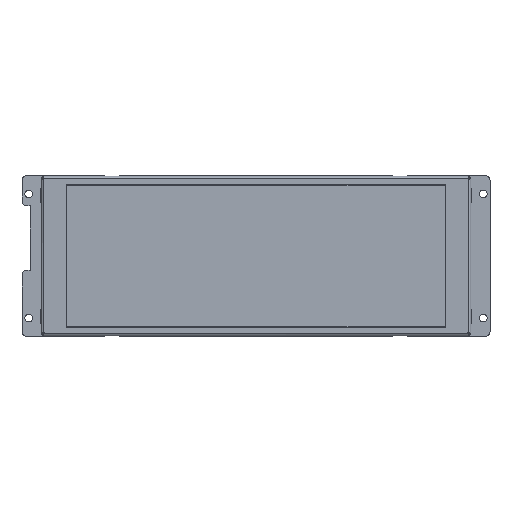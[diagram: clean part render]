
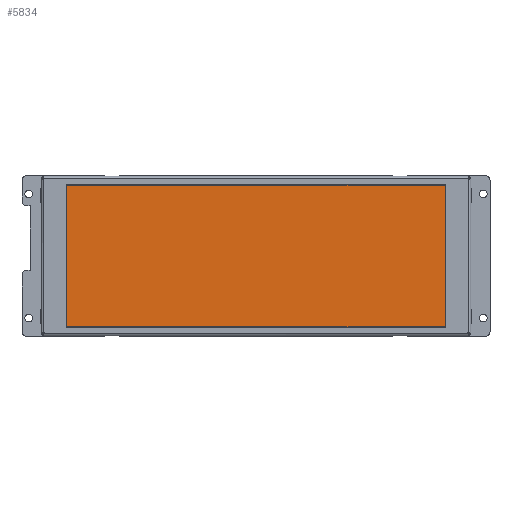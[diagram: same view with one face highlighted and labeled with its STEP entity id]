
A CAD part, top view. The second image highlights one B-rep face of the part: STEP entity #5834.
In plain terms, the highlighted planar face has unit normal (0, 0, 1) as drawn and (0, 1, 0) by its records, which use the part's own axes.
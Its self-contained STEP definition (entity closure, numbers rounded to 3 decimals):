
#5404=DIRECTION('',(1.,0.,0.));
#5405=VECTOR('',#5404,60.22);
#5406=CARTESIAN_POINT('',(-30.11,4.54,-10.1));
#5407=LINE('',#5406,#5405);
#5418=DIRECTION('',(0.,0.,1.));
#5419=VECTOR('',#5418,160.59);
#5420=CARTESIAN_POINT('',(-30.11,4.54,-170.69));
#5421=LINE('',#5420,#5419);
#5432=DIRECTION('',(-1.,0.,0.));
#5433=VECTOR('',#5432,60.22);
#5434=CARTESIAN_POINT('',(30.11,4.54,-170.69));
#5435=LINE('',#5434,#5433);
#5446=DIRECTION('',(0.,0.,-1.));
#5447=VECTOR('',#5446,160.59);
#5448=CARTESIAN_POINT('',(30.11,4.54,-10.1));
#5449=LINE('',#5448,#5447);
#5557=CARTESIAN_POINT('',(-30.11,4.54,-10.1));
#5558=VERTEX_POINT('',#5557);
#5559=CARTESIAN_POINT('',(30.11,4.54,-10.1));
#5560=VERTEX_POINT('',#5559);
#5561=CARTESIAN_POINT('',(-30.11,4.54,-170.69));
#5562=VERTEX_POINT('',#5561);
#5563=CARTESIAN_POINT('',(30.11,4.54,-170.69));
#5564=VERTEX_POINT('',#5563);
#5823=CARTESIAN_POINT('',(0.,4.54,0.));
#5824=DIRECTION('',(0.,1.,0.));
#5825=DIRECTION('',(0.,0.,-1.));
#5826=AXIS2_PLACEMENT_3D('',#5823,#5824,#5825);
#5827=PLANE('',#5826);
#5828=ORIENTED_EDGE('',*,*,#5775,.F.);
#5829=ORIENTED_EDGE('',*,*,#5790,.F.);
#5830=ORIENTED_EDGE('',*,*,#5804,.F.);
#5831=ORIENTED_EDGE('',*,*,#5817,.F.);
#5832=EDGE_LOOP('',(#5828,#5829,#5830,#5831));
#5833=FACE_OUTER_BOUND('',#5832,.F.);
#5775=EDGE_CURVE('',#5558,#5560,#5407,.T.);
#5790=EDGE_CURVE('',#5562,#5558,#5421,.T.);
#5804=EDGE_CURVE('',#5564,#5562,#5435,.T.);
#5817=EDGE_CURVE('',#5560,#5564,#5449,.T.);
#5834=ADVANCED_FACE('',(#5833),#5827,.T.);
